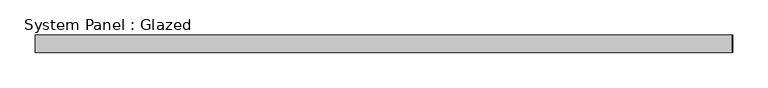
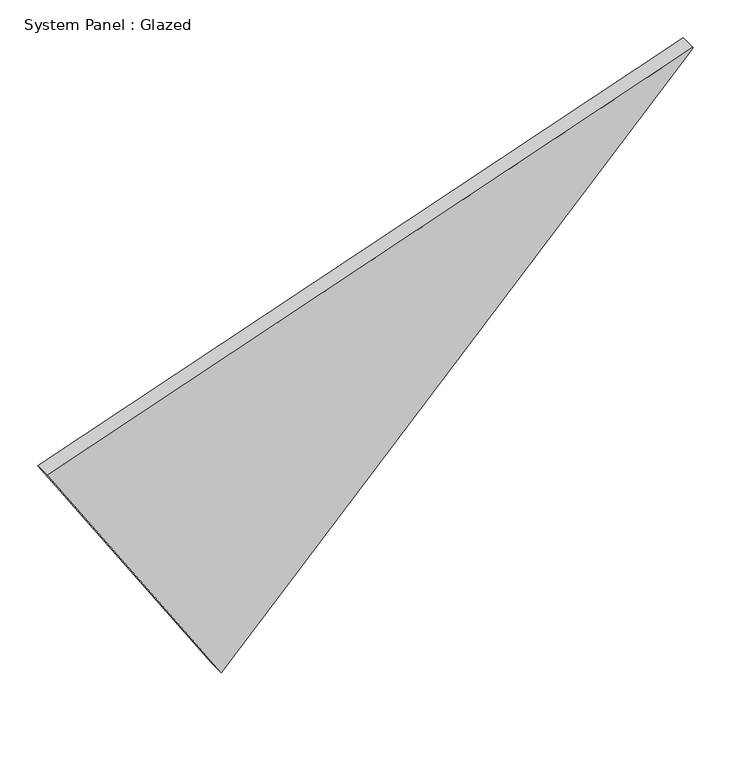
"""IFC4 building model written with IfcOpenShell, lengths in millimetres: plate geometry, System Panel : Glazed."""

from ifc_helpers import new_model, si_unit, frame, origin, place, context, project, spatial, polyline, outline, extrude, source, transform, mapped, element, save


def system_panel_glazed_623a70a2(model_context):
    return source(origin(), model_context, "Body", "SweptSolid", [
        extrude(outline(polyline([(414.766624, -496.7414833), (0.0, -228.6006772), (762.2685853, 496.7414833), (763.274122, 496.091418), (414.766624, -496.7414833)])), frame((0.0, -44.45, 0.0), z_axis=(0.0, 1.0, 0.0), x_axis=(0.0, 0.0, 1.0)), (0.0, 0.0, 1.0), 25.4),
    ])


if __name__ == "__main__":
    model = new_model("IFC4")
    model_context = context("Model", 3, world=origin())
    ifc_project = project(units=[si_unit("LENGTHUNIT", "METRE", prefix="MILLI")], contexts=[model_context])
    site = spatial("IfcSite", under=ifc_project)
    building = spatial("IfcBuilding", under=site)
    placement = place(None, origin())
    system_panel_glazed_shape = system_panel_glazed_623a70a2(model_context)
    element("IfcPlate", 1, ObjectType="System Panel : Glazed", at=placement, inside=building, context=model_context, shape_type="MappedRepresentation", body=[
        mapped(system_panel_glazed_shape, transform((0.0, 0.0, 0.0), x_axis=(1.0, 0.0, 0.0), y_axis=(0.0, 1.0, 0.0), z_axis=(0.0, 0.0, 1.0))),
    ])
    save(model, "model.ifc")
